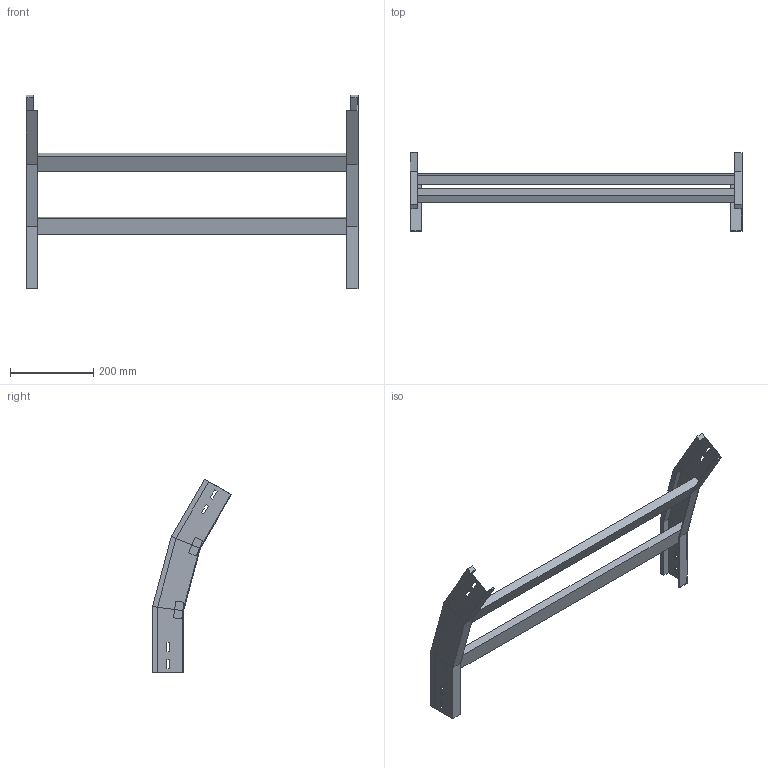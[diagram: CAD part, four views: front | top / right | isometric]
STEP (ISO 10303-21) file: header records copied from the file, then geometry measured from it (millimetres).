
FILE_DESCRIPTION (( 'STEP AP214' ), '1' );
FILE_NAME ('A2_35B3C800.step', '2025-02-21T14:50:09', ( '' ), ( '' ), 'SwSTEP 2.0', 'SolidWorks 2023', '' );
FILE_SCHEMA (( 'AUTOMOTIVE_DESIGN' ));
Length unit declared in the file: millimetre
Products named in the file (3): LONGH.DISCESA_30°_H75_R300; TRAVERSINO_800; A2_35B3C800
Assembly tree (5 placements, depth 2):
  A2_35B3C800
    LONGH.DISCESA_30°_H75_R300  x2
    TRAVERSINO_800  x3
Bounding box: 800 x 190.12 x 467.12 mm (x, y, z)
Volume: 2308466.1 mm3; surface area: 517060.5 mm2
Topology: 5 solids, 5 shells, 102 faces, 244 edges, 152 vertices
Faces by surface type: plane 102
Entity records: 1480 total; most frequent: CARTESIAN_POINT 244, ORIENTED_EDGE 232, DIRECTION 228, EDGE_CURVE 116, VECTOR 116, LINE 116, VERTEX_POINT 72, AXIS2_PLACEMENT_3D 56
